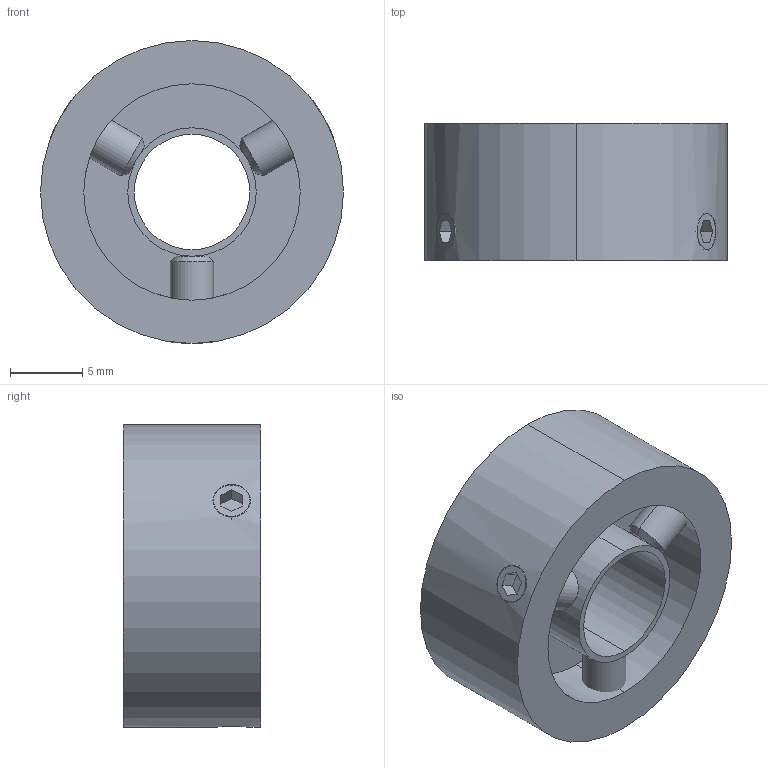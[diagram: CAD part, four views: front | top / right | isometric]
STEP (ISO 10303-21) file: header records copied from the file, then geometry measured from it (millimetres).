
FILE_DESCRIPTION (( 'STEP AP203' ), '1' );
FILE_NAME ('MN01138_Nosilec_19_12_fi8_sestav.STEP', '2017-08-10T08:15:54', ( '' ), ( '' ), 'SwSTEP 2.0', 'SolidWorks 2016', '' );
FILE_SCHEMA (( 'CONFIG_CONTROL_DESIGN' ));
Length unit declared in the file: millimetre
Products named in the file (4): MN01138_Nosilec_19_12_fi8_sestav; Magnet_D19-d12-w3; navojni_zatic_M3x6_DIN913; Nosilec_magneta_os_fi8
Assembly tree (5 placements, depth 2):
  MN01138_Nosilec_19_12_fi8_sestav
    Nosilec_magneta_os_fi8
    Magnet_D19-d12-w3
    navojni_zatic_M3x6_DIN913  x3
Bounding box: 21 x 9.5 x 21 mm (x, y, z)
Volume: 2323.8 mm3; surface area: 2977.6 mm2
Topology: 5 solids, 5 shells, 83 faces, 184 edges, 116 vertices
Faces by surface type: plane 35, cylinder 28, cone 12, torus 8
Entity records: 2198 total; most frequent: CARTESIAN_POINT 495, DIRECTION 282, ORIENTED_EDGE 240, EDGE_CURVE 120, AXIS2_PLACEMENT_3D 117, VERTEX_POINT 76, EDGE_LOOP 66, CIRCLE 56
